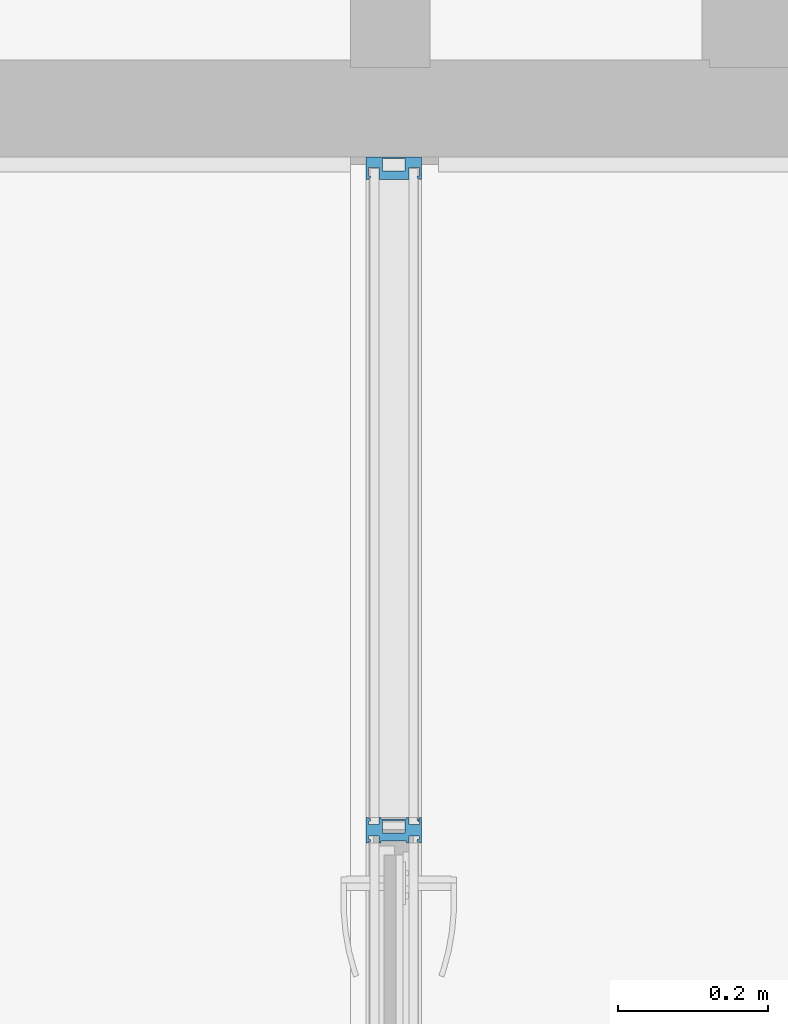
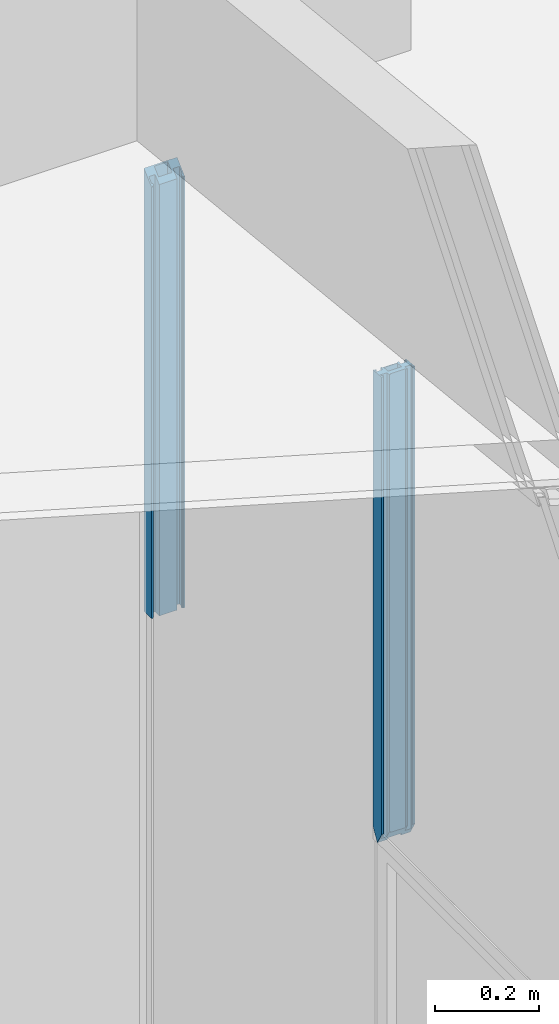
# One storey, part 12 of 43: 2 members, 1 element without a shape of its own.
"""IFC2X3 building model written with IfcOpenShell, lengths in millimetres."""

from ifc_helpers import new_model, entity, si_unit, converted_unit, derived_unit, money_unit, direction, frame, origin_with_axes, place, context, subcontext, project, spatial, faceted_brep, material, material_list, type_object, element, aggregate, save


model = new_model("IFC2X3")

# Units and contexts
model_context = context("Model", 3, precision=0.01, world=origin_with_axes(), true_north=direction((0.0, 1.0)))
body_context = subcontext(model_context, "Body", "Model", "MODEL_VIEW")
ifc_project = project(units=[si_unit("LENGTHUNIT", "METRE", prefix="MILLI"), si_unit("AREAUNIT", "SQUARE_METRE"), si_unit("VOLUMEUNIT", "CUBIC_METRE"), converted_unit("PLANEANGLEUNIT", "DEGREE", entity("IfcPlaneAngleMeasure", 0.0174532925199), si_unit("PLANEANGLEUNIT", "RADIAN"), dimensions=[0, 0, 0, 0, 0, 0, 0]), si_unit("SOLIDANGLEUNIT", "STERADIAN"), money_unit("EUR"), converted_unit("TIMEUNIT", "Year", entity("IfcTimeMeasure", 31556926.0), si_unit("TIMEUNIT", "SECOND"), dimensions=[0, 0, 1, 0, 0, 0, 0]), si_unit("MASSUNIT", "GRAM", prefix="KILO"), si_unit("THERMODYNAMICTEMPERATUREUNIT", "DEGREE_CELSIUS"), si_unit("LUMINOUSINTENSITYUNIT", "LUMEN"), si_unit("ENERGYUNIT", "JOULE", prefix="MEGA"), derived_unit("THERMALCONDUCTANCEUNIT", [(si_unit("POWERUNIT", "WATT"), 1), (si_unit("LENGTHUNIT", "METRE"), -1), (si_unit("THERMODYNAMICTEMPERATUREUNIT", "KELVIN"), -1)]), derived_unit("SPECIFICHEATCAPACITYUNIT", [(si_unit("ENERGYUNIT", "JOULE"), 1), (si_unit("MASSUNIT", "GRAM", prefix="KILO"), -1), (si_unit("THERMODYNAMICTEMPERATUREUNIT", "KELVIN"), -1)]), derived_unit("MASSDENSITYUNIT", [(si_unit("MASSUNIT", "GRAM", prefix="KILO"), 1), (si_unit("VOLUMEUNIT", "CUBIC_METRE"), -1)])], contexts=[model_context])

# Site, building, storey
site_placement = place(None, origin_with_axes())
site = spatial("IfcSite", under=ifc_project, at=site_placement, Name="L.Koidula tn 11b", CompositionType="ELEMENT")
building_placement = place(site_placement, origin_with_axes())
building = spatial("IfcBuilding", under=site, at=building_placement, Name="Rakvere Riigigümnaasium", CompositionType="ELEMENT")
storey_placement = place(building_placement, frame((0.0, 0.0, 6665.0), z_axis=(0.0, 0.0, 1.0), x_axis=(1.0, 0.0, 0.0)))
storey = spatial("IfcBuildingStorey", under=building, at=storey_placement, Name="3.korrus +6,66", CompositionType="ELEMENT", Elevation=6665.0)

# Curtain wall, members
curtain_wall_type = type_object("IfcCurtainWallType", Name="Curtain Wall Type", PredefinedType="NOTDEFINED")
curtain_wall_placement = place(storey_placement, frame((47063.0738161, 17825.4555095, 0.0), z_axis=(0.0, 0.0, 1.0), x_axis=(1.0, 0.0, 0.0)))
curtain_wall = element("IfcCurtainWall", 1, at=curtain_wall_placement, inside=storey, type_object=curtain_wall_type, Name="SKLF-24")
ifc_material_1 = material(Name="Klaasvill")
ifc_material_2 = material(Name="Teras RAL7012")
ifc_material_list = material_list([ifc_material_1, ifc_material_2])
member_type_1 = type_object("IfcMemberType", Name="Boundary Frame 30 x 42", PredefinedType="MULLION")
member_1_placement = place(curtain_wall_placement, frame((0.0, 1414.98421966, 2400.0), z_axis=(0.0, 3.29168342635e-09, 1.0), x_axis=(0.0, -1.0, 3.29168342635e-09)))
member_1 = element("IfcMember", 2, at=member_1_placement, type_object=member_type_1, material=ifc_material_list, Name="SKLF-23-raam", ObjectType="MULLION", context=body_context, shape_type="Brep", body=[
    faceted_brep([(7.49999990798, 15.000000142, -1.28537182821e-07), (13.8499999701, 15.000000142, -1.28537182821e-07), (13.8499999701, 15.000000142, 1029.25410052), (7.49999990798, 15.000000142, 1034.98524795), (7.49999990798, 29.0161444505, -1.28537182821e-07), (13.8499999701, 29.0161444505, -1.28537182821e-07), (13.8499999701, 29.0161444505, 1029.25410052), (7.49999990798, 29.0161444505, 1034.98524795)], [[[0, 1, 2, 3]], [[0, 4, 5, 1]], [[1, 5, 6, 2]], [[3, 2, 6, 7]], [[4, 0, 3, 7]], [[5, 4, 7, 6]]]),
    faceted_brep([(24.987414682, 29.0161444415, -1.28537182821e-07), (25.004489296, 27.0307503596, -1.28537182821e-07), (25.004489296, 27.0307503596, 1019.18669544), (24.987414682, 29.0161444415, 1019.20210601), (28.5126239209, 29.0161444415, -1.28537182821e-07), (28.7655837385, 28.0385325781, -1.28537182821e-07), (28.4955493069, 27.0307503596, -1.28537182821e-07), (27.75780152, 26.2930025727, -1.28537182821e-07), (26.7500193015, 26.0229681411, -1.28537182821e-07), (25.742237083, 26.2930025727, -1.28537182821e-07), (25.742237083, 26.2930025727, 1018.52084642), (26.7500193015, 26.0229681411, 1017.61127974), (27.75780152, 26.2930025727, 1016.70171306), (28.4955493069, 27.0307503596, 1016.03586404), (28.7655837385, 28.0385325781, 1015.79214638), (28.5126239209, 29.0161444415, 1016.02045347)], [[[0, 1, 2, 3]], [[0, 4, 5, 6, 7, 8, 9, 1]], [[1, 9, 10, 2]], [[3, 2, 10, 11, 12, 13, 14, 15]], [[4, 0, 3, 15]], [[5, 4, 15, 14]], [[6, 5, 14, 13]], [[7, 6, 13, 12]], [[8, 7, 12, 11]], [[9, 8, 11, 10]]]),
    faceted_brep([(7.49999990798, -24.9999997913, -1.28537182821e-07), (7.49999990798, -39.0161445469, -1.28537182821e-07), (7.49999990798, -39.0161445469, 1034.98524795), (7.49999990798, -24.9999997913, 1034.98524795), (13.8499999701, -24.9999997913, -1.28537182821e-07), (13.8499999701, -39.0161445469, -1.28537182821e-07), (13.8499999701, -39.0161445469, 1029.25410052), (13.8499999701, -24.9999997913, 1029.25410052)], [[[0, 1, 2, 3]], [[0, 4, 5, 1]], [[1, 5, 6, 2]], [[3, 2, 6, 7]], [[4, 0, 3, 7]], [[5, 4, 7, 6]]]),
    faceted_brep([(25.004489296, -37.0307503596, -1.28537182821e-07), (24.987414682, -39.0161444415, -1.28537182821e-07), (24.987414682, -39.0161444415, 1019.20210601), (25.004489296, -37.0307503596, 1019.18669544), (25.742237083, -36.2930025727, -1.28537182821e-07), (26.7500193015, -36.0229681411, -1.28537182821e-07), (27.75780152, -36.2930025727, -1.28537182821e-07), (28.4955493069, -37.0307503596, -1.28537182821e-07), (28.7655837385, -38.0385325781, -1.28537182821e-07), (28.5126239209, -39.0161444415, -1.28537182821e-07), (28.5126239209, -39.0161444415, 1016.02045347), (28.7655837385, -38.0385325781, 1015.79214638), (28.4955493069, -37.0307503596, 1016.03586404), (27.75780152, -36.2930025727, 1016.70171306), (26.7500193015, -36.0229681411, 1017.61127974), (25.742237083, -36.2930025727, 1018.52084642)], [[[0, 1, 2, 3]], [[0, 4, 5, 6, 7, 8, 9, 1]], [[1, 9, 10, 2]], [[3, 2, 10, 11, 12, 13, 14, 15]], [[4, 0, 3, 15]], [[5, 4, 15, 14]], [[6, 5, 14, 13]], [[7, 6, 13, 12]], [[8, 7, 12, 11]], [[9, 8, 11, 10]]]),
    faceted_brep([(0.0, -22.0000000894, -1.28537182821e-07), (29.5999996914, -22.0000000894, -1.28537182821e-07), (29.5999996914, -22.0000000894, 1015.03905019), (0.0, -22.0000000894, 1041.75431957), (0.0, 12.0000000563, -1.28537182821e-07), (29.5999996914, 12.0000000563, -1.28537182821e-07), (1.9999999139, 10.0000001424, -1.28537182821e-07), (1.9999999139, -20.0000001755, -1.28537182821e-07), (18.7999996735, -20.0000001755, -1.28537182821e-07), (18.7999996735, 10.0000001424, -1.28537182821e-07), (29.5999996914, 12.0000000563, 1015.03905019), (0.0, 12.0000000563, 1041.75431957), (1.9999999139, 10.0000001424, 1039.94923386), (18.7999996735, 10.0000001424, 1024.78651346), (18.7999996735, -20.0000001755, 1024.78651346), (1.9999999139, -20.0000001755, 1039.94923386)], [[[0, 1, 2, 3]], [[0, 4, 5, 1], [6, 7, 8, 9]], [[1, 5, 10, 2]], [[3, 2, 10, 11], [12, 13, 14, 15]], [[4, 0, 3, 11]], [[5, 4, 11, 10]], [[7, 6, 12, 15]], [[8, 7, 15, 14]], [[9, 8, 14, 13]], [[6, 9, 13, 12]]]),
    faceted_brep([(0.0, 12.0, -1.28537182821e-07), (29.5999996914, 12.0000000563, -1.28537182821e-07), (29.5999996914, 12.0000000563, 1015.03905019), (0.0, 12.0, 1041.75431957), (0.0, 32.0, -1.28537182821e-07), (30.0000193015, 32.0, -1.28537182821e-07), (30.0000193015, 29.0161444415, -1.28537182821e-07), (28.5126239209, 29.0161444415, -1.28537182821e-07), (24.987414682, 29.0161444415, -1.28537182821e-07), (13.8499999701, 29.0161444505, -1.28537182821e-07), (7.49999999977, 29.0161444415, -1.28537182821e-07), (7.49999999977, 15.0, -1.28537182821e-07), (13.8499999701, 15.000000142, -1.28537182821e-07), (30.0000193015, 15.0, -1.28537182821e-07), (30.0000193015, 12.0, -1.28537182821e-07), (30.0000193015, 12.0, 1014.67801534), (30.0000193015, 15.0, 1014.67801534), (13.8499999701, 15.000000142, 1029.25410052), (7.49999999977, 15.0, 1034.98524787), (7.49999999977, 29.0161444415, 1034.98524787), (13.8499999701, 29.0161444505, 1029.25410052), (24.987414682, 29.0161444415, 1019.20210601), (28.5126239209, 29.0161444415, 1016.02045347), (30.0000193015, 29.0161444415, 1014.67801534), (30.0000193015, 32.0, 1014.67801534), (0.0, 32.0, 1041.75431957)], [[[0, 1, 2, 3]], [[0, 4, 5, 6, 7, 8, 9, 10, 11, 12, 13, 14, 1]], [[1, 14, 15, 2]], [[3, 2, 15, 16, 17, 18, 19, 20, 21, 22, 23, 24, 25]], [[4, 0, 3, 25]], [[5, 4, 25, 24]], [[6, 5, 24, 23]], [[7, 6, 23, 22]], [[8, 7, 22, 21]], [[9, 8, 21, 20]], [[10, 9, 20, 19]], [[11, 10, 19, 18]], [[12, 11, 18, 17]], [[13, 12, 17, 16]], [[14, 13, 16, 15]]]),
    faceted_brep([(0.0, -22.0, -1.28537182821e-07), (0.0, -42.0, -1.28537182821e-07), (0.0, -42.0, 1041.75431957), (0.0, -22.0, 1041.75431957), (29.5999996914, -22.0000000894, -1.28537182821e-07), (30.0000193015, -22.0, -1.28537182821e-07), (30.0000193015, -25.0, -1.28537182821e-07), (13.8499999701, -24.9999997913, -1.28537182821e-07), (7.49999999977, -25.0, -1.28537182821e-07), (7.49999999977, -39.0161444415, -1.28537182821e-07), (13.8499999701, -39.0161445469, -1.28537182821e-07), (24.987414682, -39.0161444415, -1.28537182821e-07), (28.5126239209, -39.0161444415, -1.28537182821e-07), (30.0000193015, -39.0161444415, -1.28537182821e-07), (30.0000193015, -42.0, -1.28537182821e-07), (30.0000193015, -42.0, 1014.67801534), (30.0000193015, -39.0161444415, 1014.67801534), (28.5126239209, -39.0161444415, 1016.02045347), (24.987414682, -39.0161444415, 1019.20210601), (13.8499999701, -39.0161445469, 1029.25410052), (7.49999999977, -39.0161444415, 1034.98524787), (7.49999999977, -25.0, 1034.98524787), (13.8499999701, -24.9999997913, 1029.25410052), (30.0000193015, -25.0, 1014.67801534), (30.0000193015, -22.0, 1014.67801534), (29.5999996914, -22.0000000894, 1015.03905019)], [[[0, 1, 2, 3]], [[0, 4, 5, 6, 7, 8, 9, 10, 11, 12, 13, 14, 1]], [[1, 14, 15, 2]], [[3, 2, 15, 16, 17, 18, 19, 20, 21, 22, 23, 24, 25]], [[4, 0, 3, 25]], [[5, 4, 25, 24]], [[6, 5, 24, 23]], [[7, 6, 23, 22]], [[8, 7, 22, 21]], [[9, 8, 21, 20]], [[10, 9, 20, 19]], [[11, 10, 19, 18]], [[12, 11, 18, 17]], [[13, 12, 17, 16]], [[14, 13, 16, 15]]]),
])
member_type_2 = type_object("IfcMemberType", Name="Siseklaasfassaad-Vaheprofiil-Doubleline30 34 x 42", PredefinedType="MULLION")
member_2_placement = place(curtain_wall_placement, frame((0.0, 515.0, 2400.0), z_axis=(0.0, 0.0, 1.0), x_axis=(0.0, -1.0, 0.0)))
member_2 = element("IfcMember", 3, at=member_2_placement, type_object=member_type_2, material=ifc_material_list, Name="Frame-Siseklaasf-212", ObjectType="MULLION", context=body_context, shape_type="Brep", body=[
    faceted_brep([(15.4955493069, 27.0307503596, 27.3450735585), (15.7655837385, 28.0385325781, 27.8216046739), (15.7655837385, 28.0385325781, 1105.66121203), (15.4955493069, 27.0307503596, 1105.63347441), (15.5126239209, 29.0161444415, 27.3752052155), (14.75780152, 26.2930025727, 26.0431663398), (13.7500193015, 26.0229681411, 24.2647280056), (12.742237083, 26.2930025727, 22.4862896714), (12.004489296, 27.0307503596, 21.1843824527), (11.987414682, 29.0161444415, 21.1542507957), (15.5126239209, 29.0161444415, 1105.63522829), (11.987414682, 29.0161444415, 1105.27312296), (12.004489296, 27.0307503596, 1105.27487685), (12.742237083, 26.2930025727, 1105.35065743), (13.7500193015, 26.0229681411, 1105.45417563), (14.75780152, 26.2930025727, 1105.55769383)], [[[0, 1, 2, 3]], [[4, 1, 0, 5, 6, 7, 8, 9]], [[1, 4, 10, 2]], [[3, 2, 10, 11, 12, 13, 14, 15]], [[5, 0, 3, 15]], [[6, 5, 15, 14]], [[7, 6, 14, 13]], [[8, 7, 13, 12]], [[9, 8, 12, 11]], [[4, 9, 11, 10]]]),
    faceted_brep([(11.987414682, -39.0161444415, 21.1542507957), (15.5126239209, -39.0161444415, 27.3752052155), (15.5126239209, -39.0161444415, 1105.63522829), (11.987414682, -39.0161444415, 1105.27312296), (15.4955493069, -37.0307503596, 27.3450735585), (11.7344548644, -38.0385325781, 20.7078513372), (12.004489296, -37.0307503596, 21.1843824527), (12.742237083, -36.2930025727, 22.4862896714), (13.7500193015, -36.0229681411, 24.2647280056), (14.75780152, -36.2930025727, 26.0431663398), (15.4955493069, -37.0307503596, 1105.63347441), (12.004489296, -37.0307503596, 1105.27487685), (11.7344548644, -38.0385325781, 1105.24713923), (14.75780152, -36.2930025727, 1105.55769383), (13.7500193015, -36.0229681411, 1105.45417563), (12.742237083, -36.2930025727, 1105.35065743)], [[[0, 1, 2, 3]], [[4, 1, 0, 5, 6, 7, 8, 9]], [[1, 4, 10, 2]], [[11, 12, 3, 2, 10, 13, 14, 15]], [[5, 0, 3, 12]], [[6, 5, 12, 11]], [[7, 6, 11, 15]], [[8, 7, 15, 14]], [[9, 8, 14, 13]], [[4, 9, 13, 10]]]),
    faceted_brep([(-12.004489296, 27.0307503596, 21.1843824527), (-11.7344548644, 28.0385325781, 20.7078513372), (-11.7344548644, 28.0385325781, 1102.83644054), (-12.004489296, 27.0307503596, 1102.80870293), (-11.987414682, 29.0161444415, 21.1542507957), (-12.742237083, 26.2930025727, 22.4862896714), (-13.7500193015, 26.0229681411, 24.2647280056), (-14.75780152, 26.2930025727, 26.0431663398), (-15.4955493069, 27.0307503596, 27.3450735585), (-15.7655837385, 28.0385325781, 27.8216046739), (-11.987414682, 29.0161444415, 1102.81045681), (-12.742237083, 26.2930025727, 1102.73292234), (-15.7655837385, 28.0385325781, 1102.42236775), (-15.4955493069, 27.0307503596, 1102.45010537), (-14.75780152, 26.2930025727, 1102.52588595), (-13.7500193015, 26.0229681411, 1102.62940415)], [[[0, 1, 2, 3]], [[4, 1, 0, 5, 6, 7, 8, 9]], [[1, 4, 10, 2]], [[11, 3, 2, 10, 12, 13, 14, 15]], [[5, 0, 3, 11]], [[6, 5, 11, 15]], [[7, 6, 15, 14]], [[8, 7, 14, 13]], [[9, 8, 13, 12]], [[4, 9, 12, 10]]]),
    faceted_brep([(-11.987414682, -39.0161444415, 21.1542507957), (-11.7344548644, -38.0385325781, 20.7078513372), (-11.7344548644, -38.0385325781, 1102.83644054), (-11.987414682, -39.0161444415, 1102.81045681), (-12.004489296, -37.0307503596, 21.1843824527), (-15.5126239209, -39.0161444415, 27.3752052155), (-15.4955493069, -37.0307503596, 27.3450735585), (-14.75780152, -36.2930025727, 26.0431663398), (-13.7500193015, -36.0229681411, 24.2647280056), (-12.742237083, -36.2930025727, 22.4862896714), (-12.004489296, -37.0307503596, 1102.80870293), (-12.742237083, -36.2930025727, 1102.73292234), (-13.7500193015, -36.0229681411, 1102.62940415), (-14.75780152, -36.2930025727, 1102.52588595), (-15.4955493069, -37.0307503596, 1102.45010537), (-15.5126239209, -39.0161444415, 1102.44835148)], [[[0, 1, 2, 3]], [[4, 1, 0, 5, 6, 7, 8, 9]], [[1, 4, 10, 2]], [[11, 12, 13, 14, 15, 3, 2, 10]], [[5, 0, 3, 15]], [[6, 5, 15, 14]], [[7, 6, 14, 13]], [[8, 7, 13, 12]], [[9, 8, 12, 11]], [[4, 9, 11, 10]]]),
    faceted_brep([(-12.8000002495, 10.0000001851, 22.588224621), (0.0, 10.0000001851, 0.0), (4.0000003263, 10.0000001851, 7.05882063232), (4.0000003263, 10.0000001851, 1104.4526652), (-12.8000002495, 10.0000001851, 1102.72698898), (-14.8000001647, 12.0000001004, 26.1176344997), (0.0, 12.0000001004, 0.0), (-12.8000002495, -20.0000001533, 22.588224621), (0.0, -20.0000001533, 0.0), (0.0, -22.0000000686, 0.0), (-14.8000001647, -22.0000000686, 26.1176344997), (14.8000003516, 12.0000001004, 26.1176348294), (14.8000003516, -22.0000000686, 26.1176348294), (4.0000003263, -20.0000001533, 7.05882063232), (4.0000003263, -20.0000001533, 1104.4526652), (14.8000003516, 12.0000001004, 1105.56202844), (-3.08905781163e-07, 12.0000001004, 1104.04178986), (-14.8000001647, 12.0000001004, 1102.52155135), (-14.8000001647, -22.0000000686, 1102.52155135), (-3.08905781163e-07, -22.0000000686, 1104.04178986), (14.8000003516, -22.0000000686, 1105.56202844), (-12.8000002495, -20.0000001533, 1102.72698898)], [[[0, 1, 2, 3, 4]], [[5, 6, 1, 0, 7, 8, 9, 10]], [[6, 11, 12, 9, 8, 13, 2, 1]], [[2, 13, 14, 3]], [[15, 16, 17, 18, 19, 20], [3, 14, 21, 4]], [[7, 0, 4, 21]], [[6, 5, 17, 16]], [[8, 7, 21, 14, 13]], [[10, 9, 19, 18]], [[5, 10, 18, 17]], [[11, 6, 16, 15]], [[12, 11, 15, 20]], [[9, 12, 20, 19]]]),
    faceted_brep([(17.0000193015, 29.0161446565, 30.0000193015), (17.0000193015, 32.0000000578, 30.0000193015), (17.0000193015, 32.0000000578, 1105.78801179), (17.0000193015, 29.0161446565, 1105.78801179), (0.0, 32.0000000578, 0.0), (15.5126239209, 29.0161444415, 27.3752052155), (11.987414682, 29.0161444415, 21.1542507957), (7.50000002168, 29.0161446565, 13.2352876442), (7.50000002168, 15.0000000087, 13.2352876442), (17.0000193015, 15.0000000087, 30.0000193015), (17.0000193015, 12.0, 30.0000193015), (14.8000003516, 12.0000001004, 26.1176348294), (0.0, 12.0, 0.0), (0.0, 32.0000000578, 1104.04178989), (15.5126239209, 29.0161444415, 1105.63522829), (0.0, 12.0, 1104.04178989), (14.8000003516, 12.0000001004, 1105.56202844), (17.0000193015, 12.0, 1105.78801179), (17.0000193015, 15.0000000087, 1105.78801179), (7.50000002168, 15.0000000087, 1104.81218103), (7.50000002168, 29.0161446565, 1104.81218103), (11.987414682, 29.0161444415, 1105.27312296)], [[[0, 1, 2, 3]], [[4, 1, 0, 5, 6, 7, 8, 9, 10, 11, 12]], [[1, 4, 13, 2]], [[14, 3, 2, 13, 15, 16, 17, 18, 19, 20, 21]], [[5, 0, 3, 14]], [[6, 5, 14, 21]], [[7, 6, 21, 20]], [[8, 7, 20, 19]], [[9, 8, 19, 18]], [[10, 9, 18, 17]], [[11, 10, 17, 16]], [[12, 11, 16, 15]], [[4, 12, 15, 13]]]),
    faceted_brep([(17.0000193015, -24.9999999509, 30.0000193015), (17.0000193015, -21.9999999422, 30.0000193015), (17.0000193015, -21.9999999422, 1105.78801179), (17.0000193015, -24.9999999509, 1105.78801179), (14.8000003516, -22.0000000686, 26.1176348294), (7.50000002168, -24.9999999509, 13.2352876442), (7.50000002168, -39.0161445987, 13.2352876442), (11.987414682, -39.0161444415, 21.1542507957), (15.5126239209, -39.0161444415, 27.3752052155), (17.0000193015, -39.0161445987, 30.0000193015), (17.0000193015, -42.0, 30.0000193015), (0.0, -42.0, 0.0), (0.0, -21.9999999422, 0.0), (14.8000003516, -22.0000000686, 1105.56202844), (0.0, -21.9999999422, 1104.04178989), (0.0, -42.0, 1104.04178989), (17.0000193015, -42.0, 1105.78801179), (17.0000193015, -39.0161445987, 1105.78801179), (15.5126239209, -39.0161444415, 1105.63522829), (11.987414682, -39.0161444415, 1105.27312296), (7.50000002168, -39.0161445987, 1104.81218103), (7.50000002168, -24.9999999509, 1104.81218103)], [[[0, 1, 2, 3]], [[4, 1, 0, 5, 6, 7, 8, 9, 10, 11, 12]], [[1, 4, 13, 2]], [[3, 2, 13, 14, 15, 16, 17, 18, 19, 20, 21]], [[5, 0, 3, 21]], [[6, 5, 21, 20]], [[7, 6, 20, 19]], [[8, 7, 19, 18]], [[9, 8, 18, 17]], [[10, 9, 17, 16]], [[11, 10, 16, 15]], [[12, 11, 15, 14]], [[4, 12, 14, 13]]]),
    faceted_brep([(0.0, 12.0, 0.0), (0.0, 32.0, 0.0), (0.0, 32.0, 1104.04178989), (0.0, 12.0, 1104.04178989), (-17.0000193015, 32.0, 30.0000193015), (-14.8000001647, 12.0000001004, 26.1176344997), (-17.0000193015, 12.0, 30.0000193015), (-17.0000193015, 15.0, 30.0000193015), (-7.49999999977, 15.0, 13.2352876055), (-7.49999999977, 29.0161444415, 13.2352876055), (-11.987414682, 29.0161444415, 21.1542507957), (-15.5126239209, 29.0161444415, 27.3752052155), (-17.0000193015, 29.0161444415, 30.0000193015), (-17.0000193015, 32.0, 1102.29556798), (-17.0000193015, 15.0, 1102.29556798), (-17.0000193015, 12.0, 1102.29556798), (-14.8000001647, 12.0000001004, 1102.52155135), (-17.0000193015, 29.0161444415, 1102.29556798), (-15.5126239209, 29.0161444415, 1102.44835148), (-11.987414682, 29.0161444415, 1102.81045681), (-7.49999999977, 29.0161444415, 1103.27139875), (-7.49999999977, 15.0, 1103.27139875)], [[[0, 1, 2, 3]], [[4, 1, 0, 5, 6, 7, 8, 9, 10, 11, 12]], [[1, 4, 13, 2]], [[14, 15, 16, 3, 2, 13, 17, 18, 19, 20, 21]], [[5, 0, 3, 16]], [[6, 5, 16, 15]], [[7, 6, 15, 14]], [[8, 7, 14, 21]], [[9, 8, 21, 20]], [[10, 9, 20, 19]], [[11, 10, 19, 18]], [[12, 11, 18, 17]], [[4, 12, 17, 13]]]),
    faceted_brep([(0.0, -42.0, 0.0), (0.0, -22.0, 0.0), (0.0, -22.0, 1104.04178989), (0.0, -42.0, 1104.04178989), (-14.8000001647, -22.0000000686, 26.1176344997), (-17.0000193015, -42.0, 30.0000193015), (-17.0000193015, -39.0161444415, 30.0000193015), (-15.5126239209, -39.0161444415, 27.3752052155), (-11.987414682, -39.0161444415, 21.1542507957), (-7.49999999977, -39.0161444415, 13.2352876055), (-7.49999999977, -25.0, 13.2352876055), (-17.0000193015, -25.0, 30.0000193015), (-17.0000193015, -22.0, 30.0000193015), (-14.8000001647, -22.0000000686, 1102.52155135), (-17.0000193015, -39.0161444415, 1102.29556798), (-17.0000193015, -42.0, 1102.29556798), (-17.0000193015, -22.0, 1102.29556798), (-17.0000193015, -25.0, 1102.29556798), (-7.49999999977, -25.0, 1103.27139875), (-7.49999999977, -39.0161444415, 1103.27139875), (-11.987414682, -39.0161444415, 1102.81045681), (-15.5126239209, -39.0161444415, 1102.44835148)], [[[0, 1, 2, 3]], [[4, 1, 0, 5, 6, 7, 8, 9, 10, 11, 12]], [[1, 4, 13, 2]], [[14, 15, 3, 2, 13, 16, 17, 18, 19, 20, 21]], [[5, 0, 3, 15]], [[6, 5, 15, 14]], [[7, 6, 14, 21]], [[8, 7, 21, 20]], [[9, 8, 20, 19]], [[10, 9, 19, 18]], [[11, 10, 18, 17]], [[12, 11, 17, 16]], [[4, 12, 16, 13]]]),
])
aggregate(curtain_wall, [member_2, member_1])

save(model, "model.ifc")
